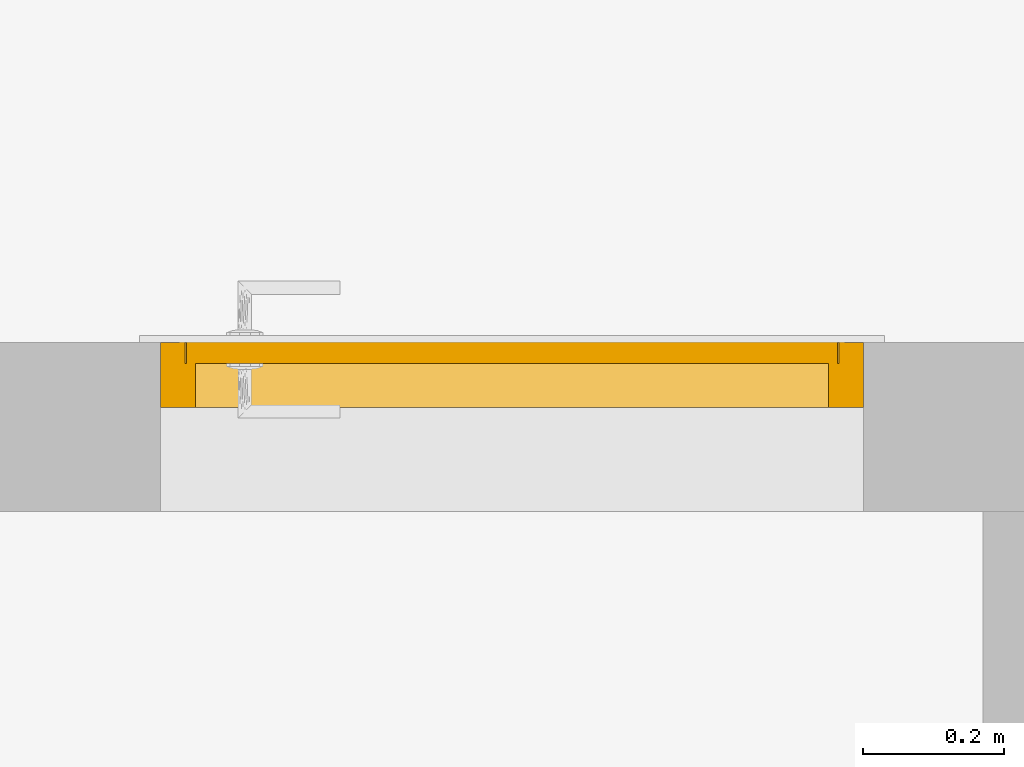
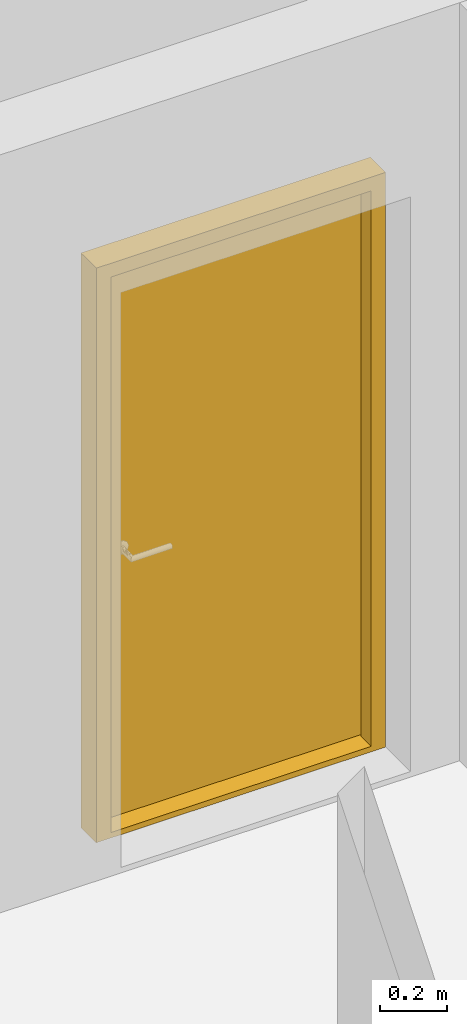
# One storey, part 15 of 68: 1 door.
"""IFC2X3 building model written with IfcOpenShell, lengths in millimetres."""

from ifc_helpers import new_model, entity, si_unit, converted_unit, direction, frame, origin, place, context, subcontext, project, spatial, faceted_brep, source, transform, mapped, material, material_list, type_object, type_shapes, element, save


model = new_model("IFC2X3")

# Units and contexts
model_context = context("Model", 3, precision=0.01, world=origin(), true_north=direction((6.123233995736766e-17, 1.0)))
plan_context = context("Plan", 3, precision=0.01, world=origin(), true_north=direction((6.123233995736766e-17, 1.0)))
body_context = subcontext(model_context, "Body", "Model", "MODEL_VIEW")
ifc_project = project(units=[si_unit("LENGTHUNIT", "METRE", prefix="MILLI"), converted_unit("PLANEANGLEUNIT", "DEGREE", entity("IfcPlaneAngleMeasure", 0.017453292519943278), si_unit("PLANEANGLEUNIT", "RADIAN"), dimensions=[0, 0, 0, 0, 0, 0, 0]), si_unit("AREAUNIT", "SQUARE_METRE")], contexts=[model_context, plan_context])

# Site, building, storey
site_placement = place(None, origin())
site = spatial("IfcSite", under=ifc_project, at=site_placement, Name="Default", CompositionType="ELEMENT")
building_placement = place(site_placement, origin())
building = spatial("IfcBuilding", under=site, at=building_placement, CompositionType="ELEMENT")
storey_placement = place(building_placement, frame((0.0, 0.0, 6295.0)))
storey = spatial("IfcBuildingStorey", under=building, at=storey_placement, Name="3K", CompositionType="ELEMENT", Elevation=6294.999999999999)

# Door
ifc_material_1 = material(Name="<Unnamed>")
ifc_material_2 = material(Name="Default")
ifc_material_list = material_list([ifc_material_1, ifc_material_2])
door_style = type_object("IfcDoorStyle", Name="HR_Generic_Hinged_Single:Default. Manteluks lävepakuga. 1000 x 2100 mm. Left", ConstructionType="NOTDEFINED", OperationType="NOTDEFINED", ParameterTakesPrecedence=False, Sizeable=False, material=ifc_material_list)
shared_shape = source(origin(), body_context, "Body", "Brep", [
    faceted_brep([(965.0, 1092.0, 20.0), (35.0, 1092.0, 20.0), (35.0, 1062.0, 20.0), (50.0, 1062.0, 20.0), (50.0, 1000.0, 20.0), (950.0, 1000.0, 20.0), (950.0, 1062.0, 20.0), (965.0, 1062.0, 20.0), (35.0, 1092.0, 0.0), (965.0, 1092.0, 0.0), (965.0, 1062.0, 0.0), (950.0, 1062.0, 0.0), (950.0, 1000.0, 0.0), (50.0, 1000.0, 0.0), (50.0, 1062.0, 0.0), (35.0, 1062.0, 0.0)], [[[0, 1, 2, 3, 4, 5, 6, 7]], [[8, 9, 10, 11, 12, 13, 14, 15]], [[1, 0, 9, 8]], [[5, 4, 13, 12]], [[2, 1, 8, 15]], [[0, 7, 10, 9]], [[3, 14, 13, 4]], [[14, 3, 2, 15]], [[6, 11, 10, 7]], [[11, 6, 5, 12]]]),
    faceted_brep([(37.0, 1062.0, 2060.0), (37.0, 1062.0, 25.0), (963.0, 1062.0, 25.0), (963.0, 1062.0, 2060.0), (27.0, 1102.0, 25.0), (27.0, 1102.0, 2070.0), (973.0, 1102.0, 2070.0), (973.0, 1102.0, 25.0), (37.0, 1092.0, 2060.0), (37.0, 1092.0, 25.0), (27.0, 1092.0, 25.0), (973.0, 1092.0, 25.0), (963.0, 1092.0, 25.0), (963.0, 1092.0, 2060.0), (27.0, 1092.0, 2070.0), (973.0, 1092.0, 2070.0)], [[[0, 1, 2, 3]], [[4, 5, 6, 7]], [[1, 0, 8, 9]], [[2, 1, 9, 10, 4, 7, 11, 12]], [[3, 2, 12, 13]], [[0, 3, 13, 8]], [[14, 10, 9, 8, 13, 12, 11, 15]], [[6, 5, 14, 15]], [[7, 6, 15, 11]], [[5, 4, 10, 14]]]),
    faceted_brep([(1000.0, 1000.0, 0.0), (950.0, 1000.0, 0.0), (950.0, 1062.0, 0.0), (965.0, 1062.0, 0.0), (965.0, 1092.0, 0.0), (1000.0, 1092.0, 0.0), (1000.0, 1000.0, 2100.0), (0.0, 1000.0, 2100.0), (0.0, 1000.0, 0.0), (50.0, 1000.0, 0.0), (50.0, 1000.0, 2050.0), (950.0, 1000.0, 2050.0), (950.0, 1062.0, 2050.0), (35.0, 1062.0, 2065.0), (965.0, 1062.0, 2065.0), (50.0, 1062.0, 2050.0), (50.0, 1062.0, 0.0), (35.0, 1062.0, 0.0), (965.0, 1092.0, 2065.0), (0.0, 1092.0, 0.0), (0.0, 1092.0, 2100.0), (1000.0, 1092.0, 2100.0), (35.0, 1092.0, 2065.0), (35.0, 1092.0, 0.0)], [[[0, 1, 2, 3, 4, 5]], [[1, 0, 6, 7, 8, 9, 10, 11]], [[1, 11, 12, 2]], [[13, 14, 3, 2, 12, 15, 16, 17]], [[3, 14, 18, 4]], [[19, 20, 21, 5, 4, 18, 22, 23]], [[0, 5, 21, 6]], [[8, 19, 23, 17, 16, 9]], [[19, 8, 7, 20]], [[13, 17, 23, 22]], [[10, 9, 16, 15]], [[7, 6, 21, 20]], [[11, 10, 15, 12]], [[14, 13, 22, 18]]]),
])
type_shapes(door_style, [shared_shape])
door_placement = place(storey_placement, frame((7220.0, 5552.999959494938, 0.0)))
element("IfcDoor", 1, at=door_placement, inside=storey, type_object=door_style, material=ifc_material_list, Name="HR_Generic_Hinged_Single:Default. Manteluks lävepakuga. 1000 x 2100 mm. Left", ObjectType="HR_Generic_Hinged_Single:Default. Manteluks lävepakuga. 1000 x 2100 mm. Left", OverallHeight=2130.000000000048, OverallWidth=1060.0000000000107, context=body_context, shape_type="MappedRepresentation", body=[
    mapped(shared_shape, transform((0.0, 0.0, 0.0), scale=1.0)),
])

save(model, "model.ifc")
